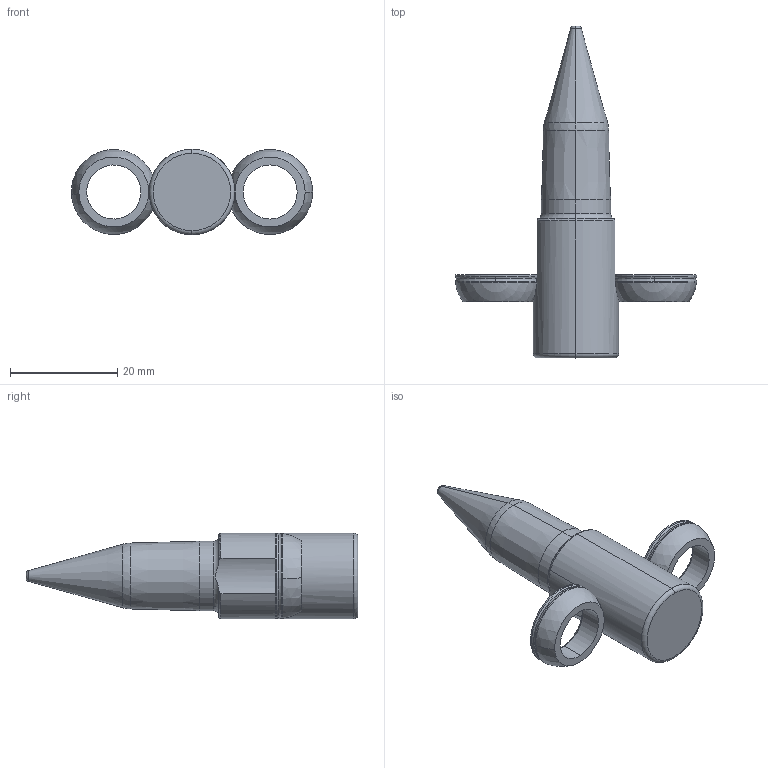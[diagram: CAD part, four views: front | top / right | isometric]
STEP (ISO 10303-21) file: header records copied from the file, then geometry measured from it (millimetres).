
FILE_DESCRIPTION (( 'STEP AP214' ), '1' );
FILE_NAME ('PA-T-13mm-2.5mm-13mm-3-A-F2.STEP', '2019-05-08T18:04:44', ( '' ), ( '' ), 'SwSTEP 2.0', 'SolidWorks 2017', '' );
FILE_SCHEMA (( 'AUTOMOTIVE_DESIGN' ));
Length unit declared in the file: inch
Products named in the file (3): SLPilot-PA-T-M_PA-T-13-2.5-13-3-A-F2; SLRadiusWasher_RadiusWasher-M; PA-T-13mm-2.5mm-13mm-3-A-F2
Assembly tree (3 placements, depth 2):
  PA-T-13mm-2.5mm-13mm-3-A-F2
    SLRadiusWasher_RadiusWasher-M  x2
    SLPilot-PA-T-M_PA-T-13-2.5-13-3-A-F2
Bounding box: 45.08 x 62.04 x 16 mm (x, y, z)
Volume: 9074.7 mm3; surface area: 3787.6 mm2
Topology: 3 solids, 3 shells, 61 faces, 136 edges, 81 vertices
Faces by surface type: torus 19, cylinder 18, cone 8, sphere 8, plane 8
Entity records: 1573 total; most frequent: CARTESIAN_POINT 352, DIRECTION 266, ORIENTED_EDGE 204, AXIS2_PLACEMENT_3D 123, EDGE_CURVE 102, CIRCLE 72, VERTEX_POINT 61, EDGE_LOOP 47
